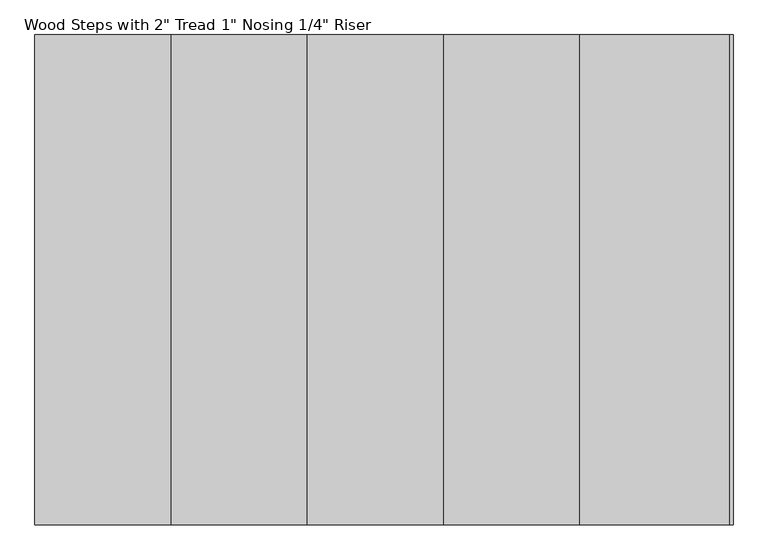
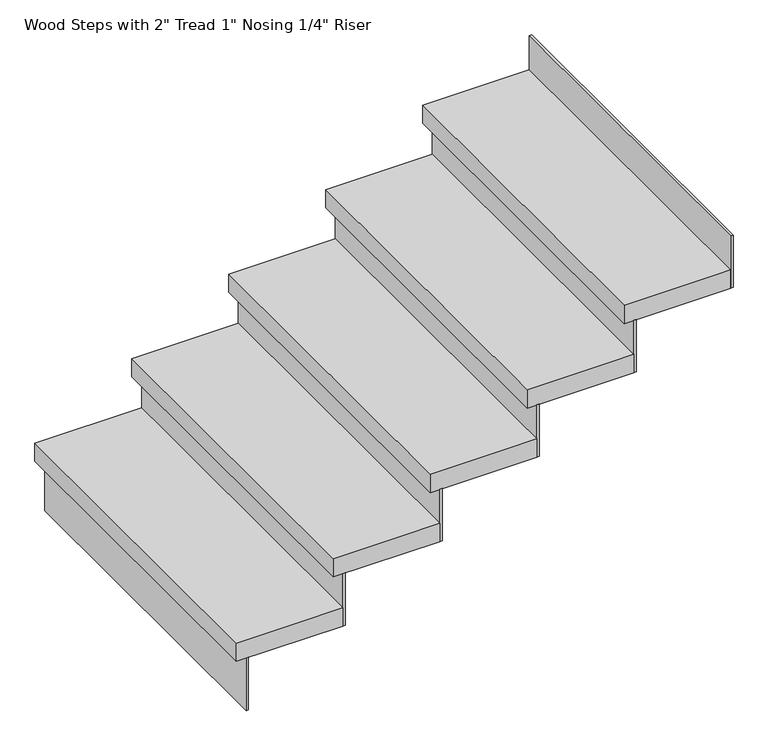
"""IFC4 building model written with IfcOpenShell, lengths in millimetres: stair flight geometry."""

from ifc_helpers import new_model, si_unit, frame, origin, place, context, project, spatial, polyline, outline, extrude, source, transform, mapped, element, save


def stair_flight_280036b4(model_context):
    return source(origin(), model_context, "Body", "SweptSolid", [
        extrude(outline(polyline([(-31231.0953515, 6638.322839), (-31237.4453515, 6638.322839), (-31237.4453515, 7552.722839), (-31231.0953515, 7552.722839), (-31231.0953515, 6638.322839)])), frame((0.0, 0.0, 2126.3428571), z_axis=(0.0, 0.0, 1.0), x_axis=(1.0, 0.0, 0.0)), (0.0, 0.0, 1.0), 145.1428571),
        extrude(outline(polyline([(-30983.4453515, 7552.722839), (-30983.4453515, 6638.322839), (-31262.8453515, 6638.322839), (-31262.8453515, 7552.722839), (-30983.4453515, 7552.722839)])), frame((0.0, 0.0, 2271.4857143), z_axis=(0.0, 0.0, 1.0), x_axis=(1.0, 0.0, 0.0)), (0.0, 0.0, 1.0), 50.8),
        extrude(outline(polyline([(-30977.0953515, 6638.322839), (-30983.4453515, 6638.322839), (-30983.4453515, 7552.722839), (-30977.0953515, 7552.722839), (-30977.0953515, 6638.322839)])), frame((0.0, 0.0, 2271.4857143), z_axis=(0.0, 0.0, 1.0), x_axis=(1.0, 0.0, 0.0)), (0.0, 0.0, 1.0), 145.1428571),
        extrude(outline(polyline([(-30729.4453515, 7552.722839), (-30729.4453515, 6638.322839), (-31008.8453515, 6638.322839), (-31008.8453515, 7552.722839), (-30729.4453515, 7552.722839)])), frame((0.0, 0.0, 2416.6285714), z_axis=(0.0, 0.0, 1.0), x_axis=(1.0, 0.0, 0.0)), (0.0, 0.0, 1.0), 50.8),
        extrude(outline(polyline([(-30723.0953515, 6638.322839), (-30729.4453515, 6638.322839), (-30729.4453515, 7552.722839), (-30723.0953515, 7552.722839), (-30723.0953515, 6638.322839)])), frame((0.0, 0.0, 2416.6285714), z_axis=(0.0, 0.0, 1.0), x_axis=(1.0, 0.0, 0.0)), (0.0, 0.0, 1.0), 145.1428571),
        extrude(outline(polyline([(-30475.4453515, 7552.722839), (-30475.4453515, 6638.322839), (-30754.8453515, 6638.322839), (-30754.8453515, 7552.722839), (-30475.4453515, 7552.722839)])), frame((0.0, 0.0, 2561.7714286), z_axis=(0.0, 0.0, 1.0), x_axis=(1.0, 0.0, 0.0)), (0.0, 0.0, 1.0), 50.8),
        extrude(outline(polyline([(-30469.0953515, 6638.322839), (-30475.4453515, 6638.322839), (-30475.4453515, 7552.722839), (-30469.0953515, 7552.722839), (-30469.0953515, 6638.322839)])), frame((0.0, 0.0, 2561.7714286), z_axis=(0.0, 0.0, 1.0), x_axis=(1.0, 0.0, 0.0)), (0.0, 0.0, 1.0), 145.1428571),
        extrude(outline(polyline([(-30221.4453515, 7552.722839), (-30221.4453515, 6638.322839), (-30500.8453515, 6638.322839), (-30500.8453515, 7552.722839), (-30221.4453515, 7552.722839)])), frame((0.0, 0.0, 2706.9142857), z_axis=(0.0, 0.0, 1.0), x_axis=(1.0, 0.0, 0.0)), (0.0, 0.0, 1.0), 50.8),
        extrude(outline(polyline([(-30215.0953515, 6638.322839), (-30221.4453515, 6638.322839), (-30221.4453515, 7552.722839), (-30215.0953515, 7552.722839), (-30215.0953515, 6638.322839)])), frame((0.0, 0.0, 2706.9142857), z_axis=(0.0, 0.0, 1.0), x_axis=(1.0, 0.0, 0.0)), (0.0, 0.0, 1.0), 145.1428571),
        extrude(outline(polyline([(-29961.0953515, 6638.322839), (-29967.4453515, 6638.322839), (-29967.4453515, 7552.722839), (-29961.0953515, 7552.722839), (-29961.0953515, 6638.322839)])), frame((0.0, 0.0, 2852.0571429), z_axis=(0.0, 0.0, 1.0), x_axis=(1.0, 0.0, 0.0)), (0.0, 0.0, 1.0), 145.1428571),
        extrude(outline(polyline([(-29967.4453515, 7552.722839), (-29967.4453515, 6638.322839), (-30246.8453515, 6638.322839), (-30246.8453515, 7552.722839), (-29967.4453515, 7552.722839)])), frame((0.0, 0.0, 2852.0571429), z_axis=(0.0, 0.0, 1.0), x_axis=(1.0, 0.0, 0.0)), (0.0, 0.0, 1.0), 50.8),
    ])


if __name__ == "__main__":
    model = new_model("IFC4")
    model_context = context("Model", 3, world=origin())
    ifc_project = project(units=[si_unit("LENGTHUNIT", "METRE", prefix="MILLI")], contexts=[model_context])
    site = spatial("IfcSite", under=ifc_project)
    building = spatial("IfcBuilding", under=site)
    placement = place(None, origin())
    stair_flight_shape = stair_flight_280036b4(model_context)
    element("IfcStairFlight", 1, ObjectType="Wood Steps with 2\" Tread 1\" Nosing 1/4\" Riser", at=placement, inside=building, context=model_context, shape_type="MappedRepresentation", body=[
        mapped(stair_flight_shape, transform((0.0, 0.0, 0.0), x_axis=(1.0, 0.0, 0.0), y_axis=(0.0, 1.0, 0.0), z_axis=(0.0, 0.0, 1.0))),
    ])
    save(model, "model.ifc")
